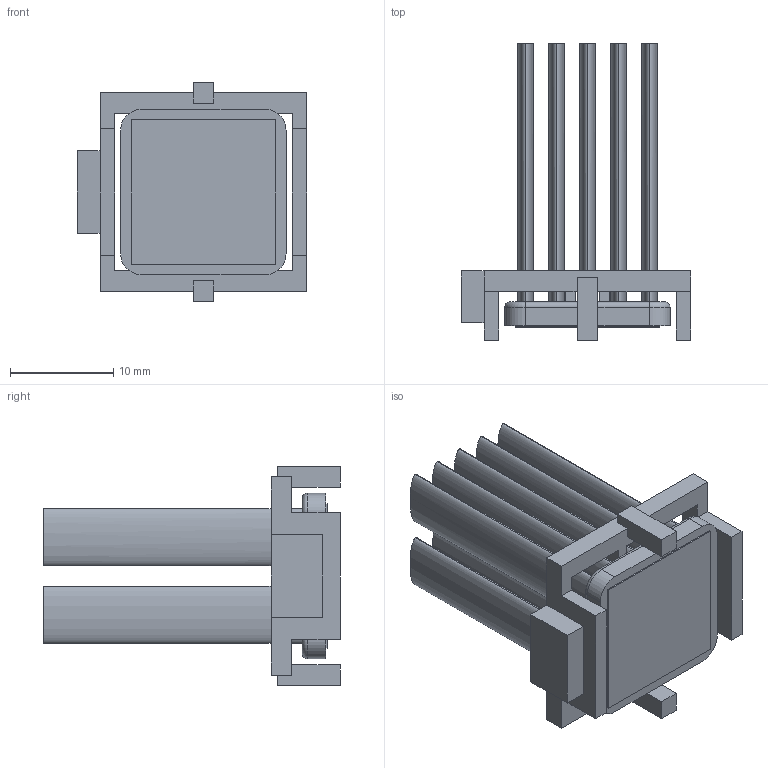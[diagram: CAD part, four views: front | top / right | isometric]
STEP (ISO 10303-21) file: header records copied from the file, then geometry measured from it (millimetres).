
FILE_DESCRIPTION (( 'STEP AP214' ), '1' );
FILE_NAME ('INM16001-27W-2.3Y.STEP', '2023-03-29T23:21:08', ( '' ), ( '' ), 'SwSTEP 2.0', 'SolidWorks 2020', '' );
FILE_SCHEMA (( 'AUTOMOTIVE_DESIGN' ));
Length unit declared in the file: millimetre
Products named in the file (1): INM16001-27W-2.3Y
Bounding box: 22.2 x 28.7 x 21.2 mm (x, y, z)
Volume: 2793.3 mm3; surface area: 5045.7 mm2
Topology: 3 solids, 3 shells, 99 faces, 244 edges, 160 vertices
Faces by surface type: plane 67, bspline 20, cylinder 8, torus 4
Entity records: 4079 total; most frequent: CARTESIAN_POINT 764, ORIENTED_EDGE 488, DIRECTION 384, EDGE_CURVE 244, VECTOR 184, LINE 184, VERTEX_POINT 160, EDGE_LOOP 110
